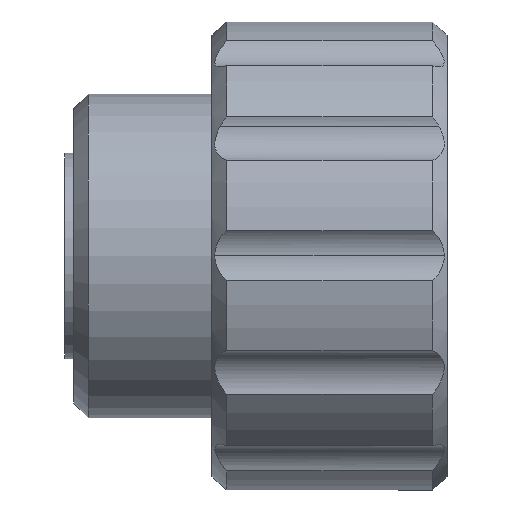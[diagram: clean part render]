
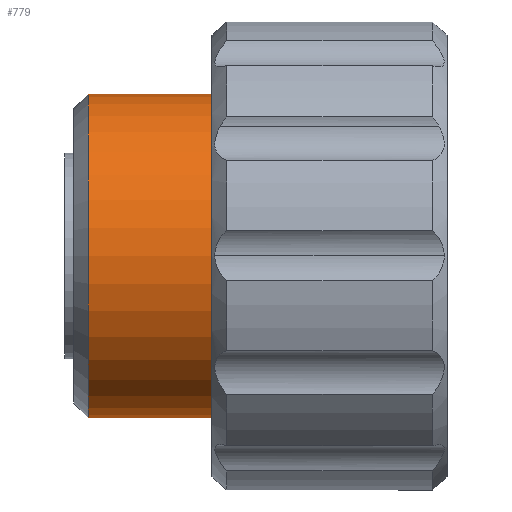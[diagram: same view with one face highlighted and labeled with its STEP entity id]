
A CAD part, top view. The second image highlights one B-rep face of the part: STEP entity #779.
In plain terms, the highlighted cylindrical face has radius 5.5 mm (diameter 11 mm), a partial arc.
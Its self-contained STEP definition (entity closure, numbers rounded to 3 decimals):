
#91 = EDGE_CURVE ( 'NONE', #788, #570, #1711, .T. ) ;
#196 = CYLINDRICAL_SURFACE ( 'NONE', #227, 5.5 ) ;
#208 = CARTESIAN_POINT ( 'NONE',  ( 0.8, 0., 0. ) ) ;
#227 = AXIS2_PLACEMENT_3D ( 'NONE', #890, #526, #1195 ) ;
#315 = DIRECTION ( 'NONE',  ( -1., 0., 0. ) ) ;
#328 = CARTESIAN_POINT ( 'NONE',  ( 9.475, -5.5, 0. ) ) ;
#511 = AXIS2_PLACEMENT_3D ( 'NONE', #208, #581, #1241 ) ;
#526 = DIRECTION ( 'NONE',  ( -1., 0., 0. ) ) ;
#570 = VERTEX_POINT ( 'NONE', #1680 ) ;
#581 = DIRECTION ( 'NONE',  ( -1., 0., 0. ) ) ;
#683 = VECTOR ( 'NONE', #315, 1000. ) ;
#779 = ADVANCED_FACE ( 'CYL_1', ( #1346 ), #196, .T. ) ;
#788 = VERTEX_POINT ( 'NONE', #1933 ) ;
#833 = EDGE_CURVE ( 'NONE', #2107, #570, #1955, .T. ) ;
#890 = CARTESIAN_POINT ( 'NONE',  ( 10.5, 0., 0. ) ) ;
#938 = ORIENTED_EDGE ( 'NONE', *, *, #91, .T. ) ;
#959 = EDGE_LOOP ( 'NONE', ( #1467, #938, #2062, #1842 ) ) ;
#1132 = VERTEX_POINT ( 'NONE', #328 ) ;
#1195 = DIRECTION ( 'NONE',  ( 0., -1., 0. ) ) ;
#1241 = DIRECTION ( 'NONE',  ( 0., -1., 0. ) ) ;
#1332 = DIRECTION ( 'NONE',  ( -1., 0., 0. ) ) ;
#1340 = CARTESIAN_POINT ( 'NONE',  ( 9.475, 0., 0. ) ) ;
#1346 = FACE_OUTER_BOUND ( 'NONE', #959, .T. ) ;
#1399 = CARTESIAN_POINT ( 'NONE',  ( 10.5, 5.5, 0. ) ) ;
#1407 = CARTESIAN_POINT ( 'NONE',  ( 0.8, -5.5, 0. ) ) ;
#1467 = ORIENTED_EDGE ( 'NONE', *, *, #1502, .T. ) ;
#1484 = AXIS2_PLACEMENT_3D ( 'NONE', #1340, #1332, #1811 ) ;
#1489 = LINE ( 'NONE', #2024, #683 ) ;
#1502 = EDGE_CURVE ( 'NONE', #1132, #788, #1554, .T. ) ;
#1554 = CIRCLE ( 'NONE', #1484, 5.5 ) ;
#1590 = VECTOR ( 'NONE', #1877, 1000. ) ;
#1680 = CARTESIAN_POINT ( 'NONE',  ( 0.8, 5.5, 0. ) ) ;
#1711 = LINE ( 'NONE', #1399, #1590 ) ;
#1811 = DIRECTION ( 'NONE',  ( 0., -1., 0. ) ) ;
#1842 = ORIENTED_EDGE ( 'NONE', *, *, #1872, .F. ) ;
#1872 = EDGE_CURVE ( 'NONE', #1132, #2107, #1489, .T. ) ;
#1877 = DIRECTION ( 'NONE',  ( -1., 0., 0. ) ) ;
#1933 = CARTESIAN_POINT ( 'NONE',  ( 9.475, 5.5, 0. ) ) ;
#1955 = CIRCLE ( 'NONE', #511, 5.5 ) ;
#2024 = CARTESIAN_POINT ( 'NONE',  ( 10.5, -5.5, 0. ) ) ;
#2062 = ORIENTED_EDGE ( 'NONE', *, *, #833, .F. ) ;
#2107 = VERTEX_POINT ( 'NONE', #1407 ) ;
